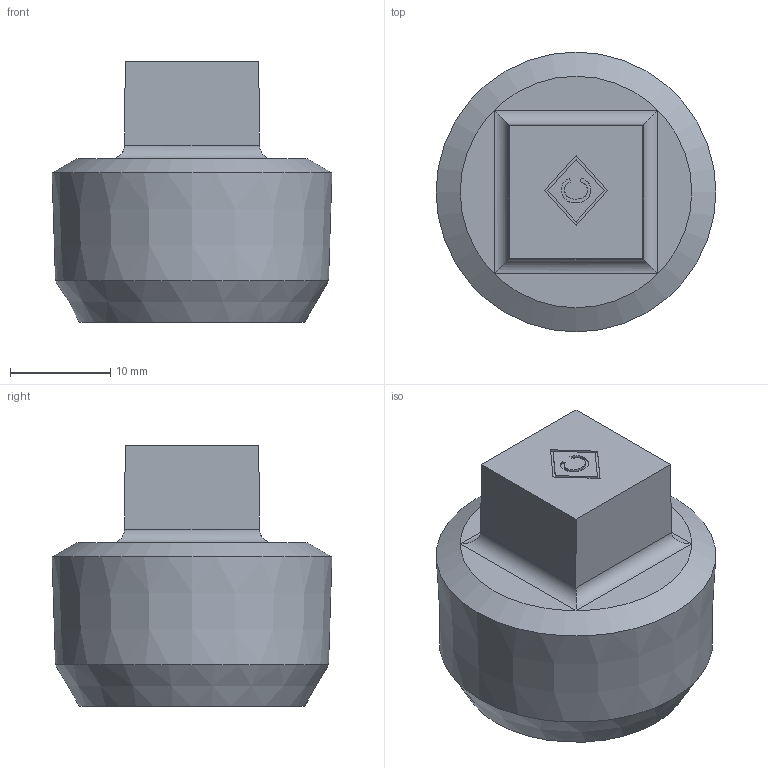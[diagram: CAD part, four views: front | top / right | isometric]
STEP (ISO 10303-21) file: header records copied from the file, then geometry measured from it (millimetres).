
FILE_DESCRIPTION((''),'2;1');
FILE_NAME('P:\Fastrack\53909_CRANE\Crane\Fig.147 Plain Plug Hollow\New 0.75 inch\147-0.75.stp','2009-09-14T16:47:48',('btaylor'),(''),'Autodesk Inventor 2008','Autodesk Inventor 2008','');
FILE_SCHEMA(('AUTOMOTIVE_DESIGN { 1 0 10303 214 1 1 1 1 }'));
Length unit declared in the file: millimetre
Products named in the file (1): 147-0.75
Bounding box: 27.94 x 27.94 x 26 mm (x, y, z)
Volume: 8634.5 mm3; surface area: 3216.2 mm2
Topology: 1 solids, 1 shells, 38 faces, 89 edges, 57 vertices
Faces by surface type: plane 20, bspline 8, cone 4, cylinder 4, torus 1, sphere 1
Entity records: 1173 total; most frequent: CARTESIAN_POINT 347, ORIENTED_EDGE 162, DIRECTION 138, EDGE_CURVE 81, VERTEX_POINT 55, VECTOR 54, LINE 54, EDGE_LOOP 48
